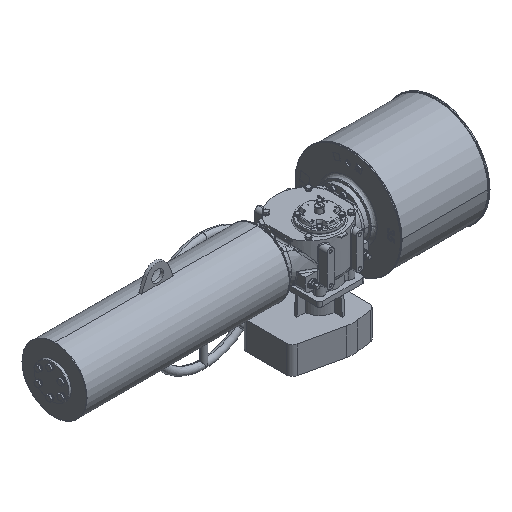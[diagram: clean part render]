
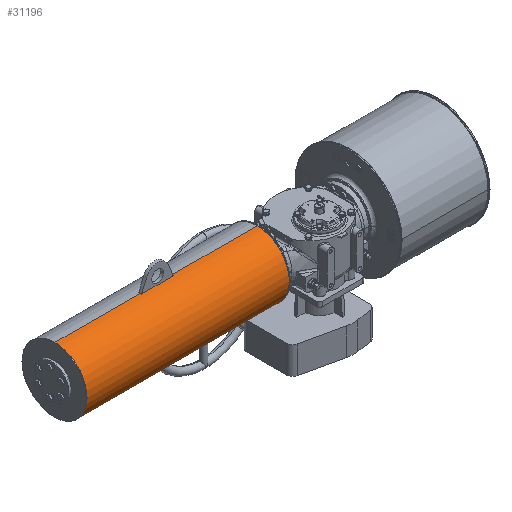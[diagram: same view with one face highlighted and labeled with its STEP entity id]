
A CAD part, isometric view. The second image highlights one B-rep face of the part: STEP entity #31196.
In plain terms, the highlighted cylindrical face has radius 109.5 mm (diameter 219 mm), a partial arc.
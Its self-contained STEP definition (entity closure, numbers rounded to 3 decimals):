
#212 = VERTEX_POINT ( 'NONE', #16141 ) ;
#266 = CARTESIAN_POINT ( 'NONE',  ( -552., 17.5, 166.886 ) ) ;
#1036 = CARTESIAN_POINT ( 'NONE',  ( -444., 22.5, 167. ) ) ;
#7760 = VECTOR ( 'NONE', #61973, 1000. ) ;
#8323 = EDGE_CURVE ( 'NONE', #65068, #52471, #69970, .T. ) ;
#8361 = AXIS2_PLACEMENT_3D ( 'NONE', #41201, #69390, #20391 ) ;
#9202 = EDGE_CURVE ( 'NONE', #42126, #212, #30424, .T. ) ;
#9678 = DIRECTION ( 'NONE',  ( 1., 0., 0. ) ) ;
#10086 = DIRECTION ( 'NONE',  ( 0., -1., 0. ) ) ;
#11762 = EDGE_CURVE ( 'NONE', #56926, #42126, #36954, .T. ) ;
#14955 = VECTOR ( 'NONE', #9678, 1000. ) ;
#15446 = EDGE_CURVE ( 'NONE', #65068, #66492, #26807, .T. ) ;
#15896 = ORIENTED_EDGE ( 'NONE', *, *, #15446, .F. ) ;
#16141 = CARTESIAN_POINT ( 'NONE',  ( -153., 22.5, -52. ) ) ;
#16218 = VERTEX_POINT ( 'NONE', #266 ) ;
#16494 = DIRECTION ( 'NONE',  ( -1., 0., 0. ) ) ;
#17044 = CARTESIAN_POINT ( 'NONE',  ( -839.5, 22.5, 167. ) ) ;
#17239 = CARTESIAN_POINT ( 'NONE',  ( -843., 22.5, -52. ) ) ;
#17841 = AXIS2_PLACEMENT_3D ( 'NONE', #65943, #16494, #87675 ) ;
#19349 = VECTOR ( 'NONE', #65147, 1000. ) ;
#20391 = DIRECTION ( 'NONE',  ( 0., 0., -1. ) ) ;
#20497 = EDGE_CURVE ( 'NONE', #212, #37350, #68040, .T. ) ;
#21014 = CARTESIAN_POINT ( 'NONE',  ( -843., 22.5, 57.5 ) ) ;
#26807 = LINE ( 'NONE', #41135, #7760 ) ;
#30068 = ORIENTED_EDGE ( 'NONE', *, *, #11762, .T. ) ;
#30424 = LINE ( 'NONE', #43856, #81558 ) ;
#31196 = ADVANCED_FACE ( 'NONE', ( #48156 ), #54641, .T. ) ;
#31920 = DIRECTION ( 'NONE',  ( 1., 0., 0. ) ) ;
#31955 = AXIS2_PLACEMENT_3D ( 'NONE', #44784, #43860, #66475 ) ;
#32528 = AXIS2_PLACEMENT_3D ( 'NONE', #61465, #31920, #89194 ) ;
#33704 = ORIENTED_EDGE ( 'NONE', *, *, #9202, .T. ) ;
#34440 = DIRECTION ( 'NONE',  ( 1., 0., 0. ) ) ;
#34587 = CARTESIAN_POINT ( 'NONE',  ( -843., 22.5, 167. ) ) ;
#34899 = CIRCLE ( 'NONE', #31955, 109.5 ) ;
#35608 = EDGE_CURVE ( 'NONE', #16218, #75534, #58464, .T. ) ;
#36954 = CIRCLE ( 'NONE', #32528, 109.5 ) ;
#37350 = VERTEX_POINT ( 'NONE', #90190 ) ;
#37803 = ORIENTED_EDGE ( 'NONE', *, *, #35608, .T. ) ;
#38780 = CARTESIAN_POINT ( 'NONE',  ( -552., 22.5, 167. ) ) ;
#40786 = ORIENTED_EDGE ( 'NONE', *, *, #20497, .T. ) ;
#41135 = CARTESIAN_POINT ( 'NONE',  ( -839.5, 22.5, 167. ) ) ;
#41201 = CARTESIAN_POINT ( 'NONE',  ( -839.5, 22.5, 57.5 ) ) ;
#41824 = CARTESIAN_POINT ( 'NONE',  ( -444., 17.5, 166.886 ) ) ;
#41959 = AXIS2_PLACEMENT_3D ( 'NONE', #80345, #79899, #10086 ) ;
#42126 = VERTEX_POINT ( 'NONE', #17239 ) ;
#43150 = CARTESIAN_POINT ( 'NONE',  ( -843., -87., 57.5 ) ) ;
#43856 = CARTESIAN_POINT ( 'NONE',  ( -839.5, 22.5, -52. ) ) ;
#43860 = DIRECTION ( 'NONE',  ( -1., 0., 0. ) ) ;
#44148 = CARTESIAN_POINT ( 'NONE',  ( -552., 22.5, 57.5 ) ) ;
#44784 = CARTESIAN_POINT ( 'NONE',  ( -153., 22.5, 57.5 ) ) ;
#44813 = CARTESIAN_POINT ( 'NONE',  ( -839.5, 17.5, 166.886 ) ) ;
#45067 = EDGE_CURVE ( 'NONE', #16218, #52471, #52661, .T. ) ;
#45075 = EDGE_CURVE ( 'NONE', #54574, #75534, #72989, .T. ) ;
#48156 = FACE_OUTER_BOUND ( 'NONE', #53773, .T. ) ;
#52387 = EDGE_CURVE ( 'NONE', #54574, #56926, #63279, .T. ) ;
#52471 = VERTEX_POINT ( 'NONE', #41824 ) ;
#52661 = LINE ( 'NONE', #44813, #19349 ) ;
#53773 = EDGE_LOOP ( 'NONE', ( #86784, #59671, #30068, #33704, #40786, #55332, #15896, #58013, #55001, #37803 ) ) ;
#54574 = VERTEX_POINT ( 'NONE', #34587 ) ;
#54641 = CYLINDRICAL_SURFACE ( 'NONE', #8361, 109.5 ) ;
#55001 = ORIENTED_EDGE ( 'NONE', *, *, #45067, .F. ) ;
#55332 = ORIENTED_EDGE ( 'NONE', *, *, #84953, .T. ) ;
#56926 = VERTEX_POINT ( 'NONE', #43150 ) ;
#58013 = ORIENTED_EDGE ( 'NONE', *, *, #8323, .T. ) ;
#58464 = CIRCLE ( 'NONE', #70286, 109.5 ) ;
#58638 = DIRECTION ( 'NONE',  ( 1., 0., 0. ) ) ;
#59671 = ORIENTED_EDGE ( 'NONE', *, *, #52387, .T. ) ;
#61465 = CARTESIAN_POINT ( 'NONE',  ( -843., 22.5, 57.5 ) ) ;
#61973 = DIRECTION ( 'NONE',  ( 1., 0., 0. ) ) ;
#63279 = CIRCLE ( 'NONE', #91325, 109.5 ) ;
#65068 = VERTEX_POINT ( 'NONE', #1036 ) ;
#65147 = DIRECTION ( 'NONE',  ( 1., 0., 0. ) ) ;
#65943 = CARTESIAN_POINT ( 'NONE',  ( -153., 22.5, 57.5 ) ) ;
#66475 = DIRECTION ( 'NONE',  ( 0., 0., -1. ) ) ;
#66492 = VERTEX_POINT ( 'NONE', #70250 ) ;
#68040 = CIRCLE ( 'NONE', #17841, 109.5 ) ;
#69390 = DIRECTION ( 'NONE',  ( 1., 0., 0. ) ) ;
#69970 = CIRCLE ( 'NONE', #41959, 109.5 ) ;
#70250 = CARTESIAN_POINT ( 'NONE',  ( -153., 22.5, 167. ) ) ;
#70286 = AXIS2_PLACEMENT_3D ( 'NONE', #44148, #72340, #79276 ) ;
#72340 = DIRECTION ( 'NONE',  ( -1., 0., 0. ) ) ;
#72989 = LINE ( 'NONE', #17044, #14955 ) ;
#75534 = VERTEX_POINT ( 'NONE', #38780 ) ;
#79276 = DIRECTION ( 'NONE',  ( 0., 1., 0. ) ) ;
#79899 = DIRECTION ( 'NONE',  ( 1., 0., 0. ) ) ;
#80345 = CARTESIAN_POINT ( 'NONE',  ( -444., 22.5, 57.5 ) ) ;
#81558 = VECTOR ( 'NONE', #58638, 1000. ) ;
#84365 = DIRECTION ( 'NONE',  ( 0., 0., -1. ) ) ;
#84953 = EDGE_CURVE ( 'NONE', #37350, #66492, #34899, .T. ) ;
#86784 = ORIENTED_EDGE ( 'NONE', *, *, #45075, .F. ) ;
#87675 = DIRECTION ( 'NONE',  ( 0., 0., -1. ) ) ;
#89194 = DIRECTION ( 'NONE',  ( 0., 0., -1. ) ) ;
#90190 = CARTESIAN_POINT ( 'NONE',  ( -153., -87., 57.5 ) ) ;
#91325 = AXIS2_PLACEMENT_3D ( 'NONE', #21014, #34440, #84365 ) ;
